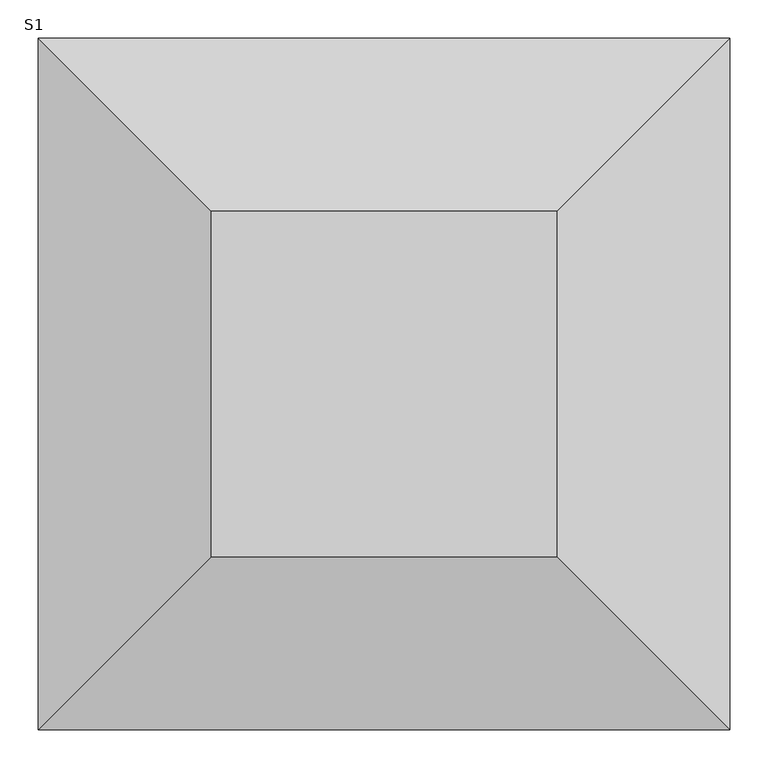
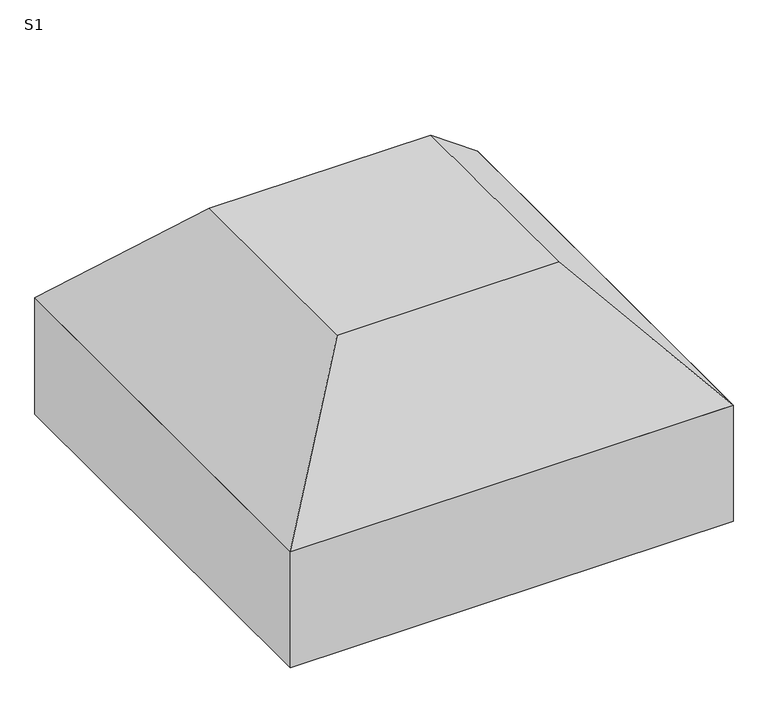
"""IFC4 building model written with IfcOpenShell, lengths in millimetres: fastener geometry, TQS - Sapata : S1."""

import ifcopenshell
import ifcopenshell.guid

model = None  # the IFC model being written
_history = None  # IfcOwnerHistory: only IFC2X3 demands one
_inside = {}  # id of a spatial element -> (the spatial element, [elements in it])
_under = {}  # id of a project, library or spatial element -> (it, [spatial elements below it])
_declared = {}  # id of a project -> (the project, [libraries it declares])
_typed = {}  # id of a type object -> (the type object, [elements of that type])
_made_of = {}  # id of a material, layer set ... -> (it, [elements and type objects made of it])


def new_model(schema):
    """Start an empty IFC model of exactly this schema.

    Asked for "IFC4X3", IfcOpenShell would pick the latest addendum, in which some entities
    have other attributes; the version numbers below select the first issue.
    IFC2X3 requires an IfcOwnerHistory on every rooted entity: one is made here for all.
    """
    global model, _history
    if schema == "IFC4X3":
        model = ifcopenshell.file(schema_version=(4, 3, 0, 0))
    else:
        model = ifcopenshell.file(schema=schema)
    _inside.clear()
    _under.clear()
    _declared.clear()
    _typed.clear()
    _made_of.clear()
    _history = None
    if model.schema == "IFC2X3":
        org = make("IfcOrganization", Name="unknown")
        user = make(
            "IfcPersonAndOrganization",
            ThePerson=make("IfcPerson", FamilyName="unknown"),
            TheOrganization=org,
        )
        app = make(
            "IfcApplication",
            ApplicationDeveloper=org,
            Version="unknown",
            ApplicationFullName="unknown",
            ApplicationIdentifier="unknown",
        )
        _history = make(
            "IfcOwnerHistory",
            OwningUser=user,
            OwningApplication=app,
            ChangeAction="ADDED",
            CreationDate=0,
        )
    return model


def make(cls, **values):
    """One entity of the class cls with the attributes given. An attribute that is None is left unset."""
    return model.create_entity(
        cls, **{name: value for name, value in values.items() if value is not None}
    )


def rooted(cls, **values):
    """An entity with a GlobalId (a new one), such as an element, a storey or a relation."""
    return make(cls, GlobalId=ifcopenshell.guid.new(), OwnerHistory=_history, **values)


def si_unit(unit_type, name, prefix=None):
    """IfcSIUnit, for example si_unit("LENGTHUNIT", "METRE", prefix="MILLI")."""
    return make("IfcSIUnit", UnitType=unit_type, Prefix=prefix, Name=name)


def assignment(units):
    """IfcUnitAssignment: the units of a project."""
    return None if units is None else make("IfcUnitAssignment", Units=units)


def point(xyz):
    """IfcCartesianPoint."""
    return None if xyz is None else make("IfcCartesianPoint", Coordinates=xyz)


def direction(xyz):
    """IfcDirection."""
    return None if xyz is None else make("IfcDirection", DirectionRatios=xyz)


def frame(location, z_axis=None, x_axis=None):
    """IfcAxis2Placement3D, a coordinate frame: its origin and axes. An axis left out is left unset."""
    return make(
        "IfcAxis2Placement3D",
        Location=point(location),
        Axis=direction(z_axis),
        RefDirection=direction(x_axis),
    )


def origin():
    """The frame at (0, 0, 0) with its axes left unset."""
    return frame((0.0, 0.0, 0.0))


def place(relative_to, where):
    """IfcLocalPlacement: puts the frame where relative to a parent placement (None: the world)."""
    return make(
        "IfcLocalPlacement", PlacementRelTo=relative_to, RelativePlacement=where
    )


def context(
    kind, dimensions, precision=None, world=None, true_north=None, identifier=None
):
    """IfcGeometricRepresentationContext, for example the 3D "Model" context."""
    return make(
        "IfcGeometricRepresentationContext",
        ContextIdentifier=identifier,
        ContextType=kind,
        CoordinateSpaceDimension=dimensions,
        Precision=precision,
        WorldCoordinateSystem=world,
        TrueNorth=true_north,
    )


def project(units=None, contexts=None):
    """IfcProject with its units and contexts."""
    return rooted(
        "IfcProject",
        Name="project",
        RepresentationContexts=contexts,
        UnitsInContext=assignment(units),
    )


def spatial(cls, under=None, at=None, **own):
    """A site, building, storey or space (cls), placed at a placement, below another one or the project."""
    s = rooted(cls, ObjectPlacement=at, **own)
    if under is not None:
        _under.setdefault(under.id(), (under, []))[1].append(s)
    return s


def polyline(points):
    """IfcPolyline through the points."""
    return make("IfcPolyline", Points=[point(p) for p in points])


def outline(outer, holes=None, kind="AREA"):
    """IfcArbitraryClosedProfileDef: a profile drawn as a closed curve; with holes, ...WithVoids."""
    if holes is None:
        return make("IfcArbitraryClosedProfileDef", ProfileType=kind, OuterCurve=outer)
    return make(
        "IfcArbitraryProfileDefWithVoids",
        ProfileType=kind,
        OuterCurve=outer,
        InnerCurves=holes,
    )


def extrude(swept, where, along, depth):
    """IfcExtrudedAreaSolid: the profile swept, set in the frame where, extruded along a direction by depth."""
    return make(
        "IfcExtrudedAreaSolid",
        SweptArea=swept,
        Position=where,
        ExtrudedDirection=direction(along),
        Depth=depth,
    )


def faces_of(points, faces, orient=None, outer=None):
    """IfcFace entities. A face is a list of loops; a loop is a list of indices into points, from 0.

    orient and outer hold one flag for each loop. By default every Orientation is true, the
    first loop of a face is its IfcFaceOuterBound and the others are IfcFaceBound.
    """
    made = []
    for i, loops in enumerate(faces):
        bounds = []
        for j, loop in enumerate(loops):
            is_outer = j == 0 if outer is None else outer[i][j]
            bounds.append(
                make(
                    "IfcFaceOuterBound" if is_outer else "IfcFaceBound",
                    Bound=make("IfcPolyLoop", Polygon=[points[k] for k in loop]),
                    Orientation=True if orient is None else orient[i][j],
                )
            )
        made.append(make("IfcFace", Bounds=bounds))
    return made


def faceted_brep(points, faces, orient=None, outer=None, voids=None):
    """IfcFacetedBrep: a solid bounded by flat faces; with voids (closed shells), ...WithVoids."""
    shared = [point(p) for p in points]
    hull = make("IfcClosedShell", CfsFaces=faces_of(shared, faces, orient, outer))
    if voids is None:
        return make("IfcFacetedBrep", Outer=hull)
    return make(
        "IfcFacetedBrepWithVoids",
        Outer=hull,
        Voids=[
            make(cls, CfsFaces=faces_of(shared, fs, o, b)) for cls, fs, o, b in voids
        ],
    )


def shape(context_of_items, identifier, shape_type, items):
    """IfcShapeRepresentation: the items that make up one representation, for example the "Body"."""
    return make(
        "IfcShapeRepresentation",
        ContextOfItems=context_of_items,
        RepresentationIdentifier=identifier,
        RepresentationType=shape_type,
        Items=items,
    )


def source(mapping_origin, context_of_items, identifier, shape_type, items):
    """IfcRepresentationMap: a shape defined once, which mapped items show again and again."""
    return make(
        "IfcRepresentationMap",
        MappingOrigin=mapping_origin,
        MappedRepresentation=shape(context_of_items, identifier, shape_type, items),
    )


def transform(
    local_origin,
    x_axis=None,
    y_axis=None,
    z_axis=None,
    scale=None,
    scale2=None,
    scale3=None,
    uniform=True,
):
    """IfcCartesianTransformationOperator3D, or its non-uniform kind. x_axis, y_axis, z_axis: its Axis1, 2, 3."""
    if uniform:
        return make(
            "IfcCartesianTransformationOperator3D",
            Axis1=direction(x_axis),
            Axis2=direction(y_axis),
            LocalOrigin=point(local_origin),
            Scale=scale,
            Axis3=direction(z_axis),
        )
    return make(
        "IfcCartesianTransformationOperator3DnonUniform",
        Axis1=direction(x_axis),
        Axis2=direction(y_axis),
        LocalOrigin=point(local_origin),
        Scale=scale,
        Axis3=direction(z_axis),
        Scale2=scale2,
        Scale3=scale3,
    )


def mapped(mapping_source, mapping_target):
    """IfcMappedItem: shows the shape of a source again, moved by a transform."""
    return make(
        "IfcMappedItem", MappingSource=mapping_source, MappingTarget=mapping_target
    )


def made_of(thing, what):
    """Note that an element or type object is made of a material, layer set ...; save() writes the relation."""
    if what is not None:
        _made_of.setdefault(what.id(), (what, []))[1].append(thing)
    return thing


def element(
    cls,
    number,
    at=None,
    inside=None,
    cuts=None,
    type_object=None,
    material=None,
    context=None,
    identifier="Body",
    shape_type=None,
    held_by="IfcProductDefinitionShape",
    body=None,
    shapes=None,
    **own,
):
    """One element of the class cls, such as IfcWall. Its Tag is "e" and its number.

    at: its placement. inside: the storey or other place that contains it. cuts: it is an
    opening in that element (IfcRelVoidsElement). A single representation is given by context,
    identifier, shape_type and body (its items); several are given by shapes. held_by: the class
    of the entity that holds the representations. save() writes the other relations.
    """
    e = rooted(cls, Tag="e%d" % number, ObjectPlacement=at, **own)
    if body is not None:
        shapes = [shape(context, identifier, shape_type, body)]
    if shapes is not None:
        e.Representation = make(held_by, Representations=shapes)
    if inside is not None:
        _inside.setdefault(inside.id(), (inside, []))[1].append(e)
    if cuts is not None:
        rooted(
            "IfcRelVoidsElement", RelatingBuildingElement=cuts, RelatedOpeningElement=e
        )
    if type_object is not None:
        _typed.setdefault(type_object.id(), (type_object, []))[1].append(e)
    return made_of(e, material)


def aggregate(whole, parts):
    """IfcRelAggregates: a whole, such as a stair, and the parts it consists of."""
    return rooted("IfcRelAggregates", RelatingObject=whole, RelatedObjects=parts)


def save(model, path):
    """Write the relations noted so far, then the file.

    IfcRelAggregates (storeys below a building ...), IfcRelContainedInSpatialStructure (elements
    in a storey), IfcRelDefinesByType, IfcRelAssociatesMaterial and IfcRelDeclares: one each for
    every whole, place, type object, material and project.
    """
    for whole, parts in _under.values():
        aggregate(whole, parts)
    for where, things in _inside.values():
        rooted(
            "IfcRelContainedInSpatialStructure",
            RelatedElements=things,
            RelatingStructure=where,
        )
    for kind, things in _typed.values():
        rooted("IfcRelDefinesByType", RelatedObjects=things, RelatingType=kind)
    for what, things in _made_of.values():
        rooted("IfcRelAssociatesMaterial", RelatedObjects=things, RelatingMaterial=what)
    for by, libraries in _declared.values():
        rooted("IfcRelDeclares", RelatingContext=by, RelatedDefinitions=libraries)
    model.write(path)


def s1_1ae5638e(model_context):
    return source(origin(), model_context, "Body", "SolidModel", [
        faceted_brep([(25.0, 25.0, 0.0), (-425.0, 25.0, 0.0), (-425.0, -425.0, 0.0), (25.0, -425.0, 0.0), (250.0, 250.0, -250.0), (250.0, -650.0, -250.0), (-650.0, -650.0, -250.0), (-650.0, 250.0, -250.0)], [[[0, 1, 2, 3]], [[4, 5, 6, 7]], [[4, 7, 1, 0]], [[7, 6, 2, 1]], [[6, 5, 3, 2]], [[5, 4, 0, 3]]]),
        extrude(outline(polyline([(250.0, 250.0), (250.0, -650.0), (-650.0, -650.0), (-650.0, 250.0), (250.0, 250.0)])), frame((0.0, 0.0, -500.0), z_axis=(0.0, 0.0, 1.0), x_axis=(1.0, 0.0, 0.0)), (0.0, 0.0, 1.0), 250.0),
    ])


if __name__ == "__main__":
    model = new_model("IFC4")
    model_context = context("Model", 3, world=origin())
    ifc_project = project(units=[si_unit("LENGTHUNIT", "METRE", prefix="MILLI")], contexts=[model_context])
    site = spatial("IfcSite", under=ifc_project)
    building = spatial("IfcBuilding", under=site)
    placement = place(None, origin())
    s1_shape = s1_1ae5638e(model_context)
    element("IfcFastener", 1, ObjectType="TQS - Sapata : S1", at=placement, inside=building, context=model_context, shape_type="MappedRepresentation", body=[
        mapped(s1_shape, transform((0.0, 0.0, 0.0), x_axis=(1.0, 0.0, 0.0), y_axis=(0.0, 1.0, 0.0), z_axis=(0.0, 0.0, 1.0))),
    ])
    save(model, "model.ifc")
